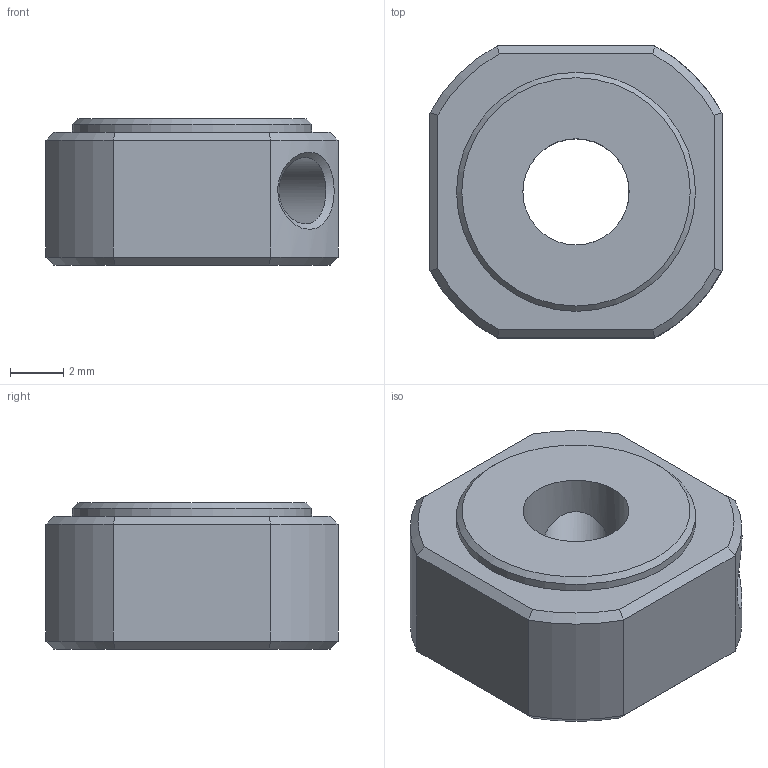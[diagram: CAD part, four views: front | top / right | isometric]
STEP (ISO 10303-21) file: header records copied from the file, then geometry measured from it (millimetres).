
FILE_DESCRIPTION(('STEP AP214'),'1');
FILE_NAME('RN5.stp','2016-09-23T12:11:18',(' '),(' '),'Spatial InterOp 3D',' ',' ');
FILE_SCHEMA(('automotive_design'));
Length unit declared in the file: millimetre
Products named in the file (1): Part42
Bounding box: 11 x 11 x 5.5 mm (x, y, z)
Volume: 469.3 mm3; surface area: 500.4 mm2
Topology: 1 solids, 1 shells, 34 faces, 75 edges, 44 vertices
Faces by surface type: plane 15, cone 9, cylinder 8, bspline 2
Full cylindrical faces by diameter (mm): 2.5 x2, 4 x1, 9 x1
Entity records: 1424 total; most frequent: CARTESIAN_POINT 447, ORIENTED_EDGE 134, DIRECTION 132, EDGE_CURVE 67, AXIS2_PLACEMENT_3D 54, EDGE_LOOP 48, VERTEX_POINT 43, FACE_OUTER_BOUND 40
